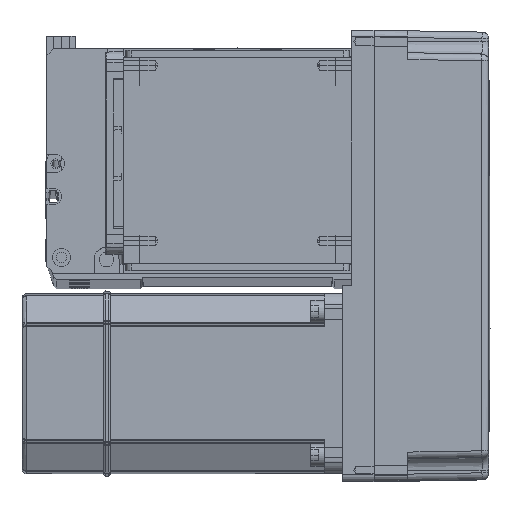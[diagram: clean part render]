
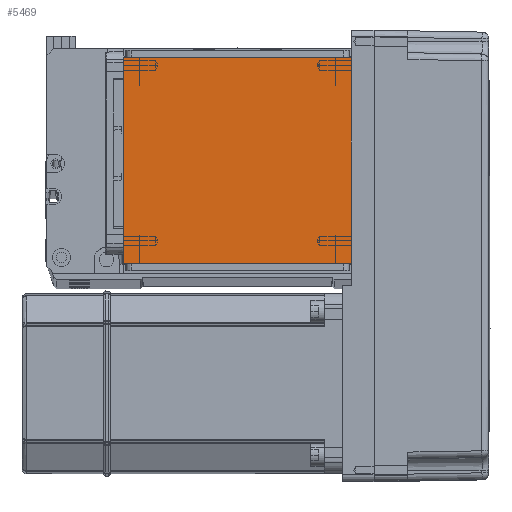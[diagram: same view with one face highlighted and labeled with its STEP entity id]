
A CAD part, top view. The second image highlights one B-rep face of the part: STEP entity #5469.
In plain terms, the highlighted planar face has unit normal (0, 0, 1).
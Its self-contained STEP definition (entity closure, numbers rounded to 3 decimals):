
#1772 = CARTESIAN_POINT ( 'NONE',  ( -70.004, 111.5, 115. ) ) ;
#2639 = LINE ( 'NONE', #1772, #46567 ) ;
#3970 = EDGE_CURVE ( 'NONE', #36476, #12813, #60905, .T. ) ;
#4943 = VECTOR ( 'NONE', #15524, 1000. ) ;
#5469 = ADVANCED_FACE ( 'NONE', ( #26588 ), #21462, .T. ) ;
#5872 = VERTEX_POINT ( 'NONE', #59929 ) ;
#7308 = CARTESIAN_POINT ( 'NONE',  ( 50.5, 20., 115. ) ) ;
#11050 = LINE ( 'NONE', #20814, #4943 ) ;
#11652 = VECTOR ( 'NONE', #21661, 1000. ) ;
#12813 = VERTEX_POINT ( 'NONE', #13786 ) ;
#13786 = CARTESIAN_POINT ( 'NONE',  ( 50.5, 111.5, 115. ) ) ;
#14435 = ORIENTED_EDGE ( 'NONE', *, *, #45998, .F. ) ;
#15524 = DIRECTION ( 'NONE',  ( -1., 0., 0. ) ) ;
#20814 = CARTESIAN_POINT ( 'NONE',  ( -70.004, 20., 115. ) ) ;
#21462 = PLANE ( 'NONE',  #52483 ) ;
#21661 = DIRECTION ( 'NONE',  ( 0., 1., 0. ) ) ;
#26338 = DIRECTION ( 'NONE',  ( 1., 0., 0. ) ) ;
#26588 = FACE_OUTER_BOUND ( 'NONE', #58831, .T. ) ;
#26666 = ORIENTED_EDGE ( 'NONE', *, *, #53095, .F. ) ;
#28892 = EDGE_CURVE ( 'NONE', #58050, #5872, #56990, .T. ) ;
#29039 = CARTESIAN_POINT ( 'NONE',  ( -50.5, 111.5, 115. ) ) ;
#36476 = VERTEX_POINT ( 'NONE', #7308 ) ;
#37295 = VECTOR ( 'NONE', #52021, 1000. ) ;
#40538 = DIRECTION ( 'NONE',  ( 1., 0., 0. ) ) ;
#40575 = ORIENTED_EDGE ( 'NONE', *, *, #3970, .T. ) ;
#45347 = CARTESIAN_POINT ( 'NONE',  ( 50.5, 122., 115. ) ) ;
#45998 = EDGE_CURVE ( 'NONE', #58050, #12813, #2639, .T. ) ;
#46567 = VECTOR ( 'NONE', #40538, 1000. ) ;
#50868 = DIRECTION ( 'NONE',  ( 0., 0., 1. ) ) ;
#52021 = DIRECTION ( 'NONE',  ( 0., -1., 0. ) ) ;
#52483 = AXIS2_PLACEMENT_3D ( 'NONE', #55972, #50868, #26338 ) ;
#53095 = EDGE_CURVE ( 'NONE', #36476, #5872, #11050, .T. ) ;
#53924 = ORIENTED_EDGE ( 'NONE', *, *, #28892, .T. ) ;
#55972 = CARTESIAN_POINT ( 'NONE',  ( 0., 0., 115. ) ) ;
#56990 = LINE ( 'NONE', #57301, #37295 ) ;
#57301 = CARTESIAN_POINT ( 'NONE',  ( -50.5, 122., 115. ) ) ;
#58050 = VERTEX_POINT ( 'NONE', #29039 ) ;
#58831 = EDGE_LOOP ( 'NONE', ( #14435, #53924, #26666, #40575 ) ) ;
#59929 = CARTESIAN_POINT ( 'NONE',  ( -50.5, 20., 115. ) ) ;
#60905 = LINE ( 'NONE', #45347, #11652 ) ;
